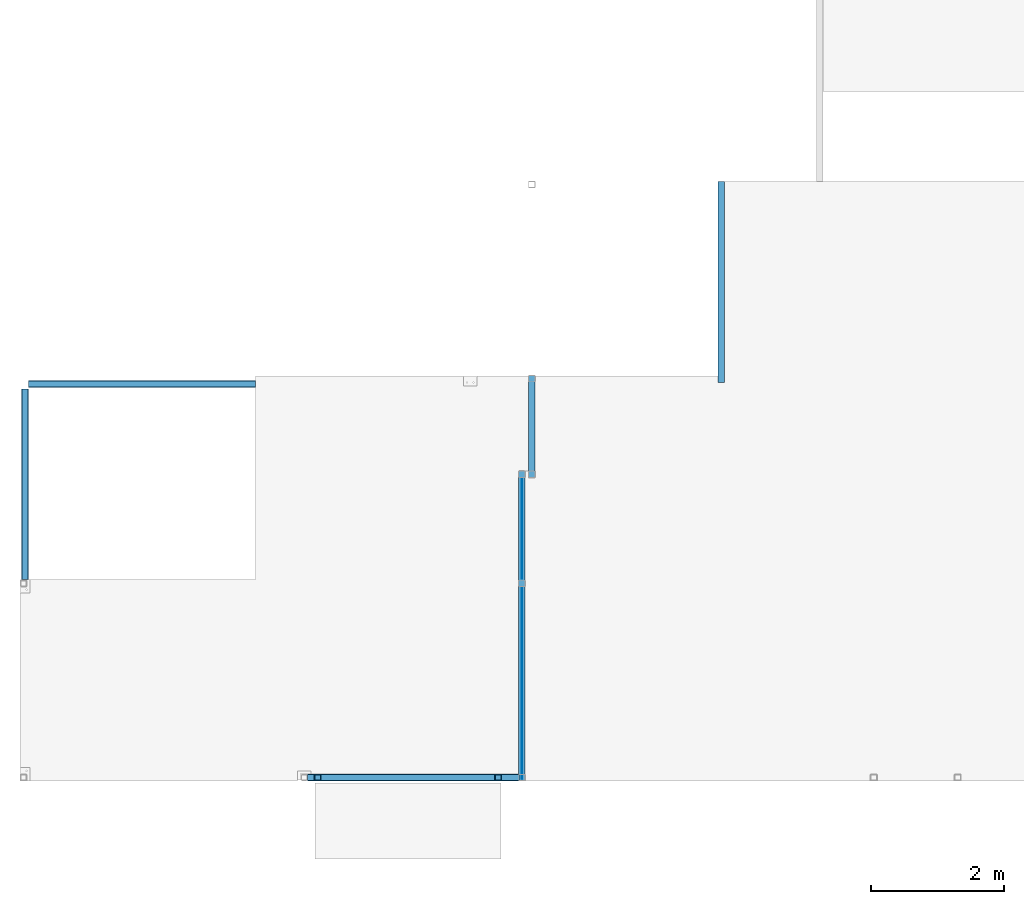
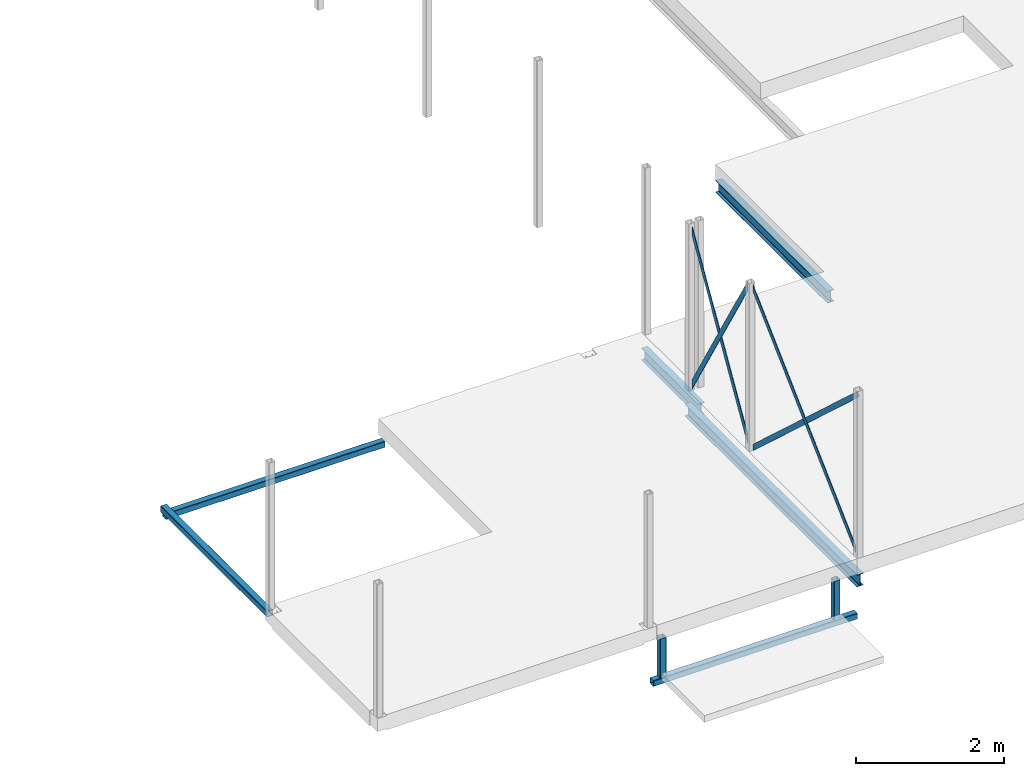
# One storey, part 5 of 7: 10 beams, 2 columns.
"""IFC2X3 building model written with IfcOpenShell, lengths in millimetres."""

from ifc_helpers import new_model, entity, si_unit, converted_unit, derived_unit, direction, frame, frame_2d, origin, place, context, subcontext, project, spatial, polyline, circle_curve, parameter, trimmed, segment, composite_curve, rectangle, i_section, outline, extrude, clip, halfspace, source, transform, mapped, material, type_object, type_shapes, element, save


model = new_model("IFC2X3")

# Units and contexts
model_context = context("Model", 3, precision=0.01, world=origin(), true_north=direction((6.12303176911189e-17, 1.0)))
body_context = subcontext(model_context, "Body", "Model", "MODEL_VIEW")
ifc_project = project(units=[si_unit("LENGTHUNIT", "METRE", prefix="MILLI"), si_unit("AREAUNIT", "SQUARE_METRE"), si_unit("VOLUMEUNIT", "CUBIC_METRE"), converted_unit("PLANEANGLEUNIT", "DEGREE", entity("IfcRatioMeasure", 0.0174532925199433), si_unit("PLANEANGLEUNIT", "RADIAN"), dimensions=[0, 0, 0, 0, 0, 0, 0]), si_unit("MASSUNIT", "GRAM", prefix="KILO"), derived_unit("MASSDENSITYUNIT", [(si_unit("MASSUNIT", "GRAM", prefix="KILO"), 1), (si_unit("LENGTHUNIT", "METRE"), -3)]), si_unit("TIMEUNIT", "SECOND"), si_unit("FREQUENCYUNIT", "HERTZ"), si_unit("THERMODYNAMICTEMPERATUREUNIT", "DEGREE_CELSIUS"), derived_unit("THERMALTRANSMITTANCEUNIT", [(si_unit("MASSUNIT", "GRAM", prefix="KILO"), 1), (si_unit("THERMODYNAMICTEMPERATUREUNIT", "KELVIN"), -1), (si_unit("TIMEUNIT", "SECOND"), -3)]), derived_unit("VOLUMETRICFLOWRATEUNIT", [(si_unit("LENGTHUNIT", "METRE"), 3), (si_unit("TIMEUNIT", "SECOND"), -1)]), si_unit("ELECTRICCURRENTUNIT", "AMPERE"), si_unit("ELECTRICVOLTAGEUNIT", "VOLT"), si_unit("POWERUNIT", "WATT"), si_unit("FORCEUNIT", "NEWTON", prefix="KILO"), si_unit("ILLUMINANCEUNIT", "LUX"), si_unit("LUMINOUSFLUXUNIT", "LUMEN"), si_unit("LUMINOUSINTENSITYUNIT", "CANDELA"), derived_unit("USERDEFINED", [(si_unit("MASSUNIT", "GRAM", prefix="KILO"), -1), (si_unit("LENGTHUNIT", "METRE"), -2), (si_unit("TIMEUNIT", "SECOND"), 3), (si_unit("LUMINOUSFLUXUNIT", "LUMEN"), 1)]), derived_unit("LINEARVELOCITYUNIT", [(si_unit("LENGTHUNIT", "METRE"), 1), (si_unit("TIMEUNIT", "SECOND"), -1)]), si_unit("PRESSUREUNIT", "PASCAL"), derived_unit("USERDEFINED", [(si_unit("LENGTHUNIT", "METRE"), -2), (si_unit("MASSUNIT", "GRAM", prefix="KILO"), 1), (si_unit("TIMEUNIT", "SECOND"), -2)])], contexts=[model_context])

# Site, building, storey
site_placement = place(None, frame((0.0, 0.0, 101000.0)))
site = spatial("IfcSite", under=ifc_project, at=site_placement, Name="Default", CompositionType="ELEMENT")
building_placement = place(site_placement, origin())
building = spatial("IfcBuilding", under=site, at=building_placement, CompositionType="ELEMENT")
storey_placement = place(building_placement, frame((0.0, 0.0, 3150.0)))
storey = spatial("IfcBuildingStorey", under=building, at=storey_placement, Name="02", CompositionType="ELEMENT", Elevation=3149.9999999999)

# Columns
ifc_material_1 = material(Name="S355")
column_type_1 = type_object("IfcColumnType", Name="HUP 100x100x6.3", PredefinedType="COLUMN", material=ifc_material_1)
shared_shape_1 = source(origin(), body_context, "Body", "SweptSolid", [
    extrude(outline(composite_curve([segment(polyline([(-37.4000000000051, -50.0), (37.4000000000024, -50.0)]), True, "CONTINUOUS"), segment(trimmed(circle_curve(frame_2d((37.4000000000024, -37.3999999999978), x_axis=(-1.0, 0.0)), 12.6000000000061), [parameter(90.0000000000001)], [parameter(180.0)], True, "PARAMETER"), True, "CONTINUOUS"), segment(polyline([(50.0, -37.4000000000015), (50.0, 37.3999999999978)]), True, "CONTINUOUS"), segment(trimmed(circle_curve(frame_2d((37.4000000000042, 37.3999999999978), x_axis=(-1.0, 0.0)), 12.6000000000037), [parameter(180.0)], [parameter(270.0)], True, "PARAMETER"), True, "CONTINUOUS"), segment(polyline([(37.4000000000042, 50.0), (-37.4000000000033, 50.0)]), True, "CONTINUOUS"), segment(trimmed(circle_curve(frame_2d((-37.4000000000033, 37.4000000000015), x_axis=(-1.0, 0.0)), 12.6000000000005), [parameter(270.0)], [parameter(360.0)], True, "PARAMETER"), True, "CONTINUOUS"), segment(polyline([(-50.0, 37.3999999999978), (-50.0, -37.4000000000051)]), True, "CONTINUOUS"), segment(trimmed(circle_curve(frame_2d((-37.4000000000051, -37.4000000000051), x_axis=(-1.0, 0.0)), 12.5999999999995), [parameter(360.0)], [parameter(89.9999999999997)], True, "PARAMETER"), True, "CONTINUOUS")], self_intersect=False), holes=[composite_curve([segment(trimmed(circle_curve(frame_2d((-37.4000000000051, -37.4000000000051), x_axis=(-1.0, 0.0)), 6.2999999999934), [parameter(0.0)], [parameter(90.0)], True, "PARAMETER"), False, "CONTINUOUS"), segment(polyline([(-43.6999999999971, -37.4000000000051), (-43.6999999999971, 37.4000000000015)]), True, "CONTINUOUS"), segment(trimmed(circle_curve(frame_2d((-37.3999999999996, 37.4000000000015), x_axis=(-1.0, 0.0)), 6.29999999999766), [parameter(270.0)], [parameter(360.0)], True, "PARAMETER"), False, "CONTINUOUS"), segment(polyline([(-37.3999999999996, 43.6999999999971), (37.3999999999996, 43.6999999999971)]), True, "CONTINUOUS"), segment(trimmed(circle_curve(frame_2d((37.3999999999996, 37.3999999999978), x_axis=(-1.0, 0.0)), 6.30000000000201), [parameter(180.0)], [parameter(270.0)], True, "PARAMETER"), False, "CONTINUOUS"), segment(polyline([(43.7000000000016, 37.3999999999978), (43.7000000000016, -37.4000000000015)]), True, "CONTINUOUS"), segment(trimmed(circle_curve(frame_2d((37.4000000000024, -37.3999999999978), x_axis=(-1.0, 0.0)), 6.30000000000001), [parameter(90.0000000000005)], [parameter(180.0)], True, "PARAMETER"), False, "CONTINUOUS"), segment(polyline([(37.4000000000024, -43.7000000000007), (-37.4000000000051, -43.7000000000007)]), True, "CONTINUOUS")], self_intersect=False)]), frame((8188.31887653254, 23497.9507529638, 2250.0), z_axis=(0.0, 0.0, 1.0), x_axis=(-1.0, 0.0, 0.0)), (0.0, 0.0, 1.0), 650.000000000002),
])
type_shapes(column_type_1, [shared_shape_1])
column_1_placement = place(storey_placement, frame((0.0, 0.0, -3150.0)))
element("IfcColumn", 1, at=column_1_placement, inside=storey, type_object=column_type_1, material=ifc_material_1, Name="Søyle HUP:HUP 100x100x6.3", ObjectType="HUP 100x100x6.3", context=body_context, shape_type="MappedRepresentation", body=[
    mapped(shared_shape_1, transform((0.0, 0.0, 0.0), scale=1.0)),
])
column_type_2 = type_object("IfcColumnType", Name="HUP 100x100x6.3", PredefinedType="COLUMN", material=ifc_material_1)
shared_shape_2 = source(origin(), body_context, "Body", "SweptSolid", [
    extrude(outline(composite_curve([segment(polyline([(-37.4000000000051, -50.0), (37.4000000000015, -50.0)]), True, "CONTINUOUS"), segment(trimmed(circle_curve(frame_2d((37.4000000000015, -37.3999999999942), x_axis=(-1.0, 0.0)), 12.6000000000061), [parameter(90.0000000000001)], [parameter(180.0)], True, "PARAMETER"), True, "CONTINUOUS"), segment(polyline([(50.0, -37.4000000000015), (50.0, 37.4000000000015)]), True, "CONTINUOUS"), segment(trimmed(circle_curve(frame_2d((37.4000000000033, 37.4000000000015), x_axis=(-1.0, 0.0)), 12.6000000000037), [parameter(180.0)], [parameter(270.0)], True, "PARAMETER"), True, "CONTINUOUS"), segment(polyline([(37.4000000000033, 50.0), (-37.4000000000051, 50.0)]), True, "CONTINUOUS"), segment(trimmed(circle_curve(frame_2d((-37.4000000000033, 37.4000000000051), x_axis=(-1.0, 0.0)), 12.6000000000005), [parameter(270.0)], [parameter(360.0)], True, "PARAMETER"), True, "CONTINUOUS"), segment(polyline([(-50.0, 37.4000000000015), (-50.0, -37.4000000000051)]), True, "CONTINUOUS"), segment(trimmed(circle_curve(frame_2d((-37.4000000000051, -37.4000000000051), x_axis=(-1.0, 0.0)), 12.5999999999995), [parameter(360.0)], [parameter(89.9999999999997)], True, "PARAMETER"), True, "CONTINUOUS")], self_intersect=False), holes=[composite_curve([segment(trimmed(circle_curve(frame_2d((-37.4000000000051, -37.4000000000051), x_axis=(-1.0, 0.0)), 6.2999999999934), [parameter(0.0)], [parameter(90.0)], True, "PARAMETER"), False, "CONTINUOUS"), segment(polyline([(-43.7000000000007, -37.4000000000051), (-43.7000000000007, 37.4000000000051)]), True, "CONTINUOUS"), segment(trimmed(circle_curve(frame_2d((-37.4000000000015, 37.4000000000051), x_axis=(-1.0, 0.0)), 6.29999999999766), [parameter(270.0)], [parameter(360.0)], True, "PARAMETER"), False, "CONTINUOUS"), segment(polyline([(-37.4000000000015, 43.6999999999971), (37.3999999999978, 43.6999999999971)]), True, "CONTINUOUS"), segment(trimmed(circle_curve(frame_2d((37.3999999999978, 37.4000000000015), x_axis=(-1.0, 0.0)), 6.30000000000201), [parameter(180.0)], [parameter(270.0)], True, "PARAMETER"), False, "CONTINUOUS"), segment(polyline([(43.7000000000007, 37.4000000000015), (43.7000000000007, -37.4000000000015)]), True, "CONTINUOUS"), segment(trimmed(circle_curve(frame_2d((37.4000000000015, -37.3999999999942), x_axis=(-1.0, 0.0)), 6.30000000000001), [parameter(90.0000000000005)], [parameter(180.0)], True, "PARAMETER"), False, "CONTINUOUS"), segment(polyline([(37.4000000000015, -43.6999999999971), (-37.4000000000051, -43.6999999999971)]), True, "CONTINUOUS")], self_intersect=False)]), frame((10904.3188765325, 23497.9507529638, 2250.0), z_axis=(0.0, 0.0, 1.0), x_axis=(-1.0, 0.0, 0.0)), (0.0, 0.0, 1.0), 650.000000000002),
])
type_shapes(column_type_2, [shared_shape_2])
column_2_placement = place(storey_placement, frame((0.0, 0.0, -3150.0)))
element("IfcColumn", 2, at=column_2_placement, inside=storey, type_object=column_type_2, material=ifc_material_1, Name="Søyle HUP:HUP 100x100x6.3", ObjectType="HUP 100x100x6.3", context=body_context, shape_type="MappedRepresentation", body=[
    mapped(shared_shape_2, transform((0.0, 0.0, 0.0), scale=1.0)),
])

# Beams
ifc_material_2 = material(Name="Stål - S355")
beam_type_1 = type_object("IfcBeamType", Name="Bjelke IPE:IPE 200", PredefinedType="BEAM")
beam_1_placement = place(storey_placement, frame((11411.2644969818, 28058.4336358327, -465.0), z_axis=(0.0, 0.0, 1.0), x_axis=(0.0, 1.0, 0.0)))
element("IfcBeam", 3, at=beam_1_placement, inside=storey, type_object=beam_type_1, material=ifc_material_2, Name="Bjelke IPE:IPE 200", ObjectType="Bjelke IPE:IPE 200", context=body_context, shape_type="SweptSolid", body=[
    extrude(i_section(OverallWidth=100.000000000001, OverallDepth=200.0, WebThickness=5.60000000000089, FlangeThickness=8.50000000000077, FilletRadius=11.9999999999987, at=frame_2d((5.47117906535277e-13, -1.08357767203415e-12), x_axis=(0.0, 1.0))), frame((-49.906267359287, 0.0, 100.0), z_axis=(1.0, 0.0, 0.0), x_axis=(0.0, 0.0, -1.0)), (0.0, 0.0, 1.0), 1536.39754447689),
])
beam_2_placement = place(storey_placement, frame((14260.1002454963, 29490.299422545, -465.0), z_axis=(0.0, 0.0, 1.0), x_axis=(0.0, 1.0, 0.0)))
element("IfcBeam", 4, at=beam_2_placement, inside=storey, type_object=beam_type_1, material=ifc_material_2, Name="Bjelke IPE:IPE 200", ObjectType="Bjelke IPE:IPE 200", context=body_context, shape_type="SweptSolid", body=[
    extrude(i_section(OverallWidth=99.9999999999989, OverallDepth=200.0, WebThickness=5.60000000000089, FlangeThickness=8.50000000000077, FilletRadius=11.9999999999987, at=frame_2d((5.47117906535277e-13, -3.25073301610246e-12), x_axis=(0.0, 1.0))), frame((-49.9062673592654, 0.0, 100.0), z_axis=(1.0, 0.0, 0.0), x_axis=(0.0, 0.0, -1.0)), (0.0, 0.0, 1.0), 3025.53967144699),
])
beam_3_placement = place(storey_placement, frame((11261.2644969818, 23494.5531223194, -465.0), z_axis=(0.0, 0.0, 1.0), x_axis=(0.0, 1.0, 0.0)))
element("IfcBeam", 5, at=beam_3_placement, inside=storey, type_object=beam_type_1, material=ifc_material_2, Name="Bjelke IPE:IPE 200", ObjectType="Bjelke IPE:IPE 200", context=body_context, shape_type="SweptSolid", body=[
    extrude(i_section(OverallWidth=99.9999999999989, OverallDepth=200.0, WebThickness=5.60000000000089, FlangeThickness=8.50000000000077, FilletRadius=11.9999999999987, at=frame_2d((5.47117906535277e-13, 1.08357767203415e-12), x_axis=(0.0, 1.0))), frame((-46.5086367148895, 0.0, 100.0), z_axis=(1.0, 0.0, 0.0), x_axis=(0.0, 0.0, -1.0)), (0.0, 0.0, 1.0), 4660.3891502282),
])
ifc_material_3 = material(Name="Structural Framing Fireproofing")
beam_type_2 = type_object("IfcBeamType", Name="Bjelke Stålplate:VINDKRYSS", PredefinedType="BEAM")
beam_4_placement = place(storey_placement, frame((11261.2644969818, 28175.7629851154, -197.756193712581), z_axis=(1.0, 0.0, 0.0), x_axis=(0.0, -0.510254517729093, 0.86002344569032)))
element("IfcBeam", 6, at=beam_4_placement, inside=storey, type_object=beam_type_2, material=ifc_material_3, Name="Bjelke Stålplate:VINDKRYSS", ObjectType="Bjelke Stålplate:VINDKRYSS", context=body_context, shape_type="Clipping", body=[
    clip(clip(extrude(rectangle(XDim=79.9999999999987, YDim=8.00000000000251, at=frame_2d((1.08291153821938e-12, -2.28084218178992e-12), x_axis=(0.0, 1.0))), frame((299.710058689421, 0.0, 0.0), z_axis=(1.0, 0.0, 0.0), x_axis=(0.0, 0.0, -1.0)), (0.0, 0.0, 1.0), 3075.49409951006), halfspace(frame((1014.08831074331, 1360.85719067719, -37.4000000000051), z_axis=(0.510254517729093, 0.86002344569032, 0.0), x_axis=(0.86002344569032, -0.510254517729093, 0.0)), False)), halfspace(frame((248.460140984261, 70.4067315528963, 37.4000000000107), z_axis=(-0.510254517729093, -0.86002344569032, 0.0), x_axis=(0.86002344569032, -0.510254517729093, 0.0)), False)),
])
beam_5_placement = place(storey_placement, frame((11261.2644969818, 28065.1090583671, 2766.21059492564), z_axis=(1.0, 0.0, 0.0), x_axis=(0.0, -0.511622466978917, -0.859210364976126)))
element("IfcBeam", 7, at=beam_5_placement, inside=storey, type_object=beam_type_2, material=ifc_material_3, Name="Bjelke Stålplate:VINDKRYSS", ObjectType="Bjelke Stålplate:VINDKRYSS", context=body_context, shape_type="Clipping", body=[
    clip(clip(extrude(rectangle(XDim=80.0000000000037, YDim=8.00000000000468, at=frame_2d((-1.08268949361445e-12, -2.8066438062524e-13), x_axis=(0.0, 1.0))), frame((82.6918492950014, 0.0, 0.0), z_axis=(1.0, 0.0, 0.0), x_axis=(0.0, 0.0, -1.0)), (0.0, 0.0, 1.0), 3067.14386749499), halfspace(frame((2433.16989100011, 1359.60762031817, 37.3999999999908), z_axis=(-0.511622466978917, 0.859210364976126, 0.0), x_axis=(-0.859210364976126, -0.511622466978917, 0.0)), False)), halfspace(frame((3200.85064519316, 70.3771748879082, -37.4000000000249), z_axis=(0.511622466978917, -0.859210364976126, 0.0), x_axis=(-0.859210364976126, -0.511622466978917, 0.0)), False)),
])
beam_6_placement = place(storey_placement, frame((11261.2644969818, 26417.9507529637, 0.0), z_axis=(0.0, 0.675495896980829, 0.737363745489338), x_axis=(0.0, -0.737363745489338, 0.675495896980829)))
element("IfcBeam", 8, at=beam_6_placement, inside=storey, type_object=beam_type_2, material=ifc_material_3, Name="Bjelke Stålplate:VINDKRYSS", ObjectType="Bjelke Stålplate:VINDKRYSS", context=body_context, shape_type="Clipping", body=[
    clip(extrude(rectangle(XDim=80.000000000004, YDim=8.00000000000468, at=frame_2d((0.0, -1.08268949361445e-12), x_axis=(1.0, 0.0))), frame((58.2889576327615, 0.0, 0.0), z_axis=(1.0, 0.0, 0.0), x_axis=(0.0, 0.0, -1.0)), (0.0, 0.0, 1.0), 3901.99295433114), halfspace(frame((38.1055442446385, 37.3999999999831, -62.0319876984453), z_axis=(-0.737363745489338, 0.0, 0.675495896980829), x_axis=(0.675495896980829, 0.0, 0.737363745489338)), False)),
])
beam_7_placement = place(storey_placement, frame((11261.2644969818, 26384.900872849, 2733.70447995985), z_axis=(0.0, -0.687572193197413, 0.726116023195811), x_axis=(0.0, -0.726116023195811, -0.687572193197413)))
element("IfcBeam", 9, at=beam_7_placement, inside=storey, type_object=beam_type_2, material=ifc_material_3, Name="Bjelke Stålplate:VINDKRYSS", ObjectType="Bjelke Stålplate:VINDKRYSS", context=body_context, shape_type="Clipping", body=[
    clip(clip(extrude(rectangle(XDim=80.0000000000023, YDim=8.00000000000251, at=frame_2d((0.0, 1.0831335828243e-12), x_axis=(1.0, 0.0))), frame((13.010637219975, 0.0, 0.0), z_axis=(1.0, 0.0, 0.0), x_axis=(0.0, 0.0, -1.0)), (0.0, 0.0, 1.0), 3904.34267374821), halfspace(frame((1920.20070281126, 37.3999999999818, -1974.10307107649), z_axis=(-0.726116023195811, 0.0, -0.687572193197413), x_axis=(-0.687572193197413, 0.0, 0.726116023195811)), False)), halfspace(frame((3938.80324729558, -37.4000000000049, -62.6523739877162), z_axis=(0.726116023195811, 0.0, 0.687572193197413), x_axis=(-0.687572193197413, 0.0, 0.726116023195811)), False)),
])
beam_type_3 = type_object("IfcBeamType", Name="Bjelke HUP:HUP 100x100x5", PredefinedType="BEAM")
beam_8_placement = place(storey_placement, frame((3786.26449698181, 29342.9507529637, -182.500000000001), z_axis=(0.0, 0.0, 1.0), x_axis=(0.0, -1.0, 0.0)))
element("IfcBeam", 10, at=beam_8_placement, inside=storey, type_object=beam_type_3, material=ifc_material_1, Name="Bjelke HUP:HUP 100x100x5", ObjectType="Bjelke HUP:HUP 100x100x5", context=body_context, shape_type="SweptSolid", body=[
    extrude(outline(composite_curve([segment(trimmed(circle_curve(frame_2d((-40.0, -40.0), x_axis=(1.0, 0.0)), 10.0), [parameter(180.0)], [parameter(269.999999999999)], True, "PARAMETER"), True, "CONTINUOUS"), segment(polyline([(-40.0, -50.0), (40.0, -50.0)]), True, "CONTINUOUS"), segment(trimmed(circle_curve(frame_2d((40.0, -40.0), x_axis=(1.0, 0.0)), 10.0), [parameter(270.0)], [parameter(5.08888749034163e-14)], True, "PARAMETER"), True, "CONTINUOUS"), segment(polyline([(50.0, -40.0), (50.0, 40.0)]), True, "CONTINUOUS"), segment(trimmed(circle_curve(frame_2d((40.0, 40.0), x_axis=(1.0, 0.0)), 10.0), [parameter(360.0)], [parameter(89.9999999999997)], True, "PARAMETER"), True, "CONTINUOUS"), segment(polyline([(40.0, 50.0), (-40.0, 50.0)]), True, "CONTINUOUS"), segment(trimmed(circle_curve(frame_2d((-40.0, 40.0), x_axis=(1.0, 0.0)), 10.0), [parameter(90.0000000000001)], [parameter(180.0)], True, "PARAMETER"), True, "CONTINUOUS"), segment(polyline([(-50.0, 40.0), (-50.0, -40.0)]), True, "CONTINUOUS")], self_intersect=False), holes=[composite_curve([segment(polyline([(40.0, -45.0), (-40.0, -45.0)]), True, "CONTINUOUS"), segment(trimmed(circle_curve(frame_2d((-40.0, -40.0), x_axis=(1.0, 0.0)), 5.0), [parameter(180.0)], [parameter(270.0)], True, "PARAMETER"), False, "CONTINUOUS"), segment(polyline([(-45.0, -40.0), (-45.0, 40.0)]), True, "CONTINUOUS"), segment(trimmed(circle_curve(frame_2d((-40.0, 40.0), x_axis=(1.0, 0.0)), 5.0), [parameter(90.0000000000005)], [parameter(180.0)], True, "PARAMETER"), False, "CONTINUOUS"), segment(polyline([(-40.0, 45.0), (40.0, 45.0)]), True, "CONTINUOUS"), segment(trimmed(circle_curve(frame_2d((40.0, 40.0), x_axis=(1.0, 0.0)), 5.0), [parameter(0.0)], [parameter(90.0000000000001)], True, "PARAMETER"), False, "CONTINUOUS"), segment(polyline([(45.0, 40.0), (45.0, -40.0)]), True, "CONTINUOUS"), segment(trimmed(circle_curve(frame_2d((40.0, -40.0), x_axis=(1.0, 0.0)), 5.0), [parameter(270.0)], [parameter(5.08888749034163e-13)], True, "PARAMETER"), False, "CONTINUOUS")], self_intersect=False)]), frame((0.0, 0.0, 50.0), z_axis=(1.0, 0.0, 0.0), x_axis=(0.0, -1.0, 0.0)), (0.0, 0.0, 1.0), 2870.00000000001),
])
beam_9_placement = place(storey_placement, frame((3836.2644969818, 29417.9507529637, 0.0)))
element("IfcBeam", 11, at=beam_9_placement, inside=storey, type_object=beam_type_3, material=ifc_material_1, Name="Bjelke HUP:HUP 100x100x5", ObjectType="Bjelke HUP:HUP 100x100x5", context=body_context, shape_type="SweptSolid", body=[
    extrude(outline(composite_curve([segment(trimmed(circle_curve(frame_2d((-40.0, -40.0), x_axis=(1.0, 0.0)), 10.0), [parameter(180.0)], [parameter(269.999999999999)], True, "PARAMETER"), True, "CONTINUOUS"), segment(polyline([(-40.0, -50.0), (40.0, -50.0)]), True, "CONTINUOUS"), segment(trimmed(circle_curve(frame_2d((40.0, -40.0), x_axis=(1.0, 0.0)), 10.0), [parameter(270.0)], [parameter(5.08888749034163e-14)], True, "PARAMETER"), True, "CONTINUOUS"), segment(polyline([(50.0, -40.0), (50.0, 40.0)]), True, "CONTINUOUS"), segment(trimmed(circle_curve(frame_2d((40.0, 40.0), x_axis=(1.0, 0.0)), 10.0), [parameter(360.0)], [parameter(89.9999999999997)], True, "PARAMETER"), True, "CONTINUOUS"), segment(polyline([(40.0, 50.0), (-40.0, 50.0)]), True, "CONTINUOUS"), segment(trimmed(circle_curve(frame_2d((-40.0, 40.0), x_axis=(1.0, 0.0)), 10.0), [parameter(90.0000000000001)], [parameter(180.0)], True, "PARAMETER"), True, "CONTINUOUS"), segment(polyline([(-50.0, 40.0), (-50.0, -40.0)]), True, "CONTINUOUS")], self_intersect=False), holes=[composite_curve([segment(polyline([(40.0, -45.0), (-40.0, -45.0)]), True, "CONTINUOUS"), segment(trimmed(circle_curve(frame_2d((-40.0, -40.0), x_axis=(1.0, 0.0)), 5.0), [parameter(180.0)], [parameter(270.0)], True, "PARAMETER"), False, "CONTINUOUS"), segment(polyline([(-45.0, -40.0), (-45.0, 40.0)]), True, "CONTINUOUS"), segment(trimmed(circle_curve(frame_2d((-40.0, 40.0), x_axis=(1.0, 0.0)), 5.0), [parameter(90.0000000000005)], [parameter(180.0)], True, "PARAMETER"), False, "CONTINUOUS"), segment(polyline([(-40.0, 45.0), (40.0, 45.0)]), True, "CONTINUOUS"), segment(trimmed(circle_curve(frame_2d((40.0, 40.0), x_axis=(1.0, 0.0)), 5.0), [parameter(0.0)], [parameter(90.0000000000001)], True, "PARAMETER"), False, "CONTINUOUS"), segment(polyline([(45.0, 40.0), (45.0, -40.0)]), True, "CONTINUOUS"), segment(trimmed(circle_curve(frame_2d((40.0, -40.0), x_axis=(1.0, 0.0)), 5.0), [parameter(270.0)], [parameter(5.08888749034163e-13)], True, "PARAMETER"), False, "CONTINUOUS")], self_intersect=False)]), frame((0.0, 0.0, -315.0), z_axis=(1.0, 0.0, 0.0), x_axis=(0.0, -1.0, 0.0)), (0.0, 0.0, 1.0), 3420.0),
])
beam_type_4 = type_object("IfcBeamType", Name="Bjelke HUP:HUP 100x100x6.3", PredefinedType="BEAM")
beam_10_placement = place(storey_placement, frame((8106.26449698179, 23497.9507529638, 0.0)))
element("IfcBeam", 12, at=beam_10_placement, inside=storey, type_object=beam_type_4, material=ifc_material_1, Name="Bjelke HUP:HUP 100x100x6.3", ObjectType="Bjelke HUP:HUP 100x100x6.3", context=body_context, shape_type="SweptSolid", body=[
    extrude(outline(composite_curve([segment(trimmed(circle_curve(frame_2d((-37.4000000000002, -37.3999999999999), x_axis=(1.0, 0.0)), 12.6), [parameter(180.0)], [parameter(270.0)], True, "PARAMETER"), True, "CONTINUOUS"), segment(polyline([(-37.4000000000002, -50.0), (37.4000000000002, -50.0)]), True, "CONTINUOUS"), segment(trimmed(circle_curve(frame_2d((37.4000000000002, -37.3999999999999), x_axis=(1.0, 0.0)), 12.6), [parameter(270.0)], [parameter(5.08888749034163e-14)], True, "PARAMETER"), True, "CONTINUOUS"), segment(polyline([(50.0, -37.3999999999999), (50.0, 37.4000000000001)]), True, "CONTINUOUS"), segment(trimmed(circle_curve(frame_2d((37.4000000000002, 37.4000000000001), x_axis=(1.0, 0.0)), 12.6), [parameter(360.0)], [parameter(89.9999999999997)], True, "PARAMETER"), True, "CONTINUOUS"), segment(polyline([(37.4000000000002, 50.0), (-37.4000000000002, 50.0)]), True, "CONTINUOUS"), segment(trimmed(circle_curve(frame_2d((-37.4000000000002, 37.4000000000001), x_axis=(1.0, 0.0)), 12.6), [parameter(90.0000000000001)], [parameter(180.0)], True, "PARAMETER"), True, "CONTINUOUS"), segment(polyline([(-50.0, 37.4000000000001), (-50.0, -37.3999999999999)]), True, "CONTINUOUS")], self_intersect=False), holes=[composite_curve([segment(polyline([(37.4000000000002, -43.7000000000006), (-37.4000000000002, -43.7000000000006)]), True, "CONTINUOUS"), segment(trimmed(circle_curve(frame_2d((-37.4000000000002, -37.4000000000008), x_axis=(1.0, 0.0)), 6.3), [parameter(180.0)], [parameter(270.0)], True, "PARAMETER"), False, "CONTINUOUS"), segment(polyline([(-43.6999999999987, -37.4000000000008), (-43.6999999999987, 37.3999999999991)]), True, "CONTINUOUS"), segment(trimmed(circle_curve(frame_2d((-37.4000000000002, 37.3999999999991), x_axis=(1.0, 0.0)), 6.3), [parameter(90.0000000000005)], [parameter(180.0)], True, "PARAMETER"), False, "CONTINUOUS"), segment(polyline([(-37.4000000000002, 43.6999999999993), (37.4000000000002, 43.6999999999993)]), True, "CONTINUOUS"), segment(trimmed(circle_curve(frame_2d((37.4000000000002, 37.3999999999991), x_axis=(1.0, 0.0)), 6.3), [parameter(0.0)], [parameter(90.0000000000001)], True, "PARAMETER"), False, "CONTINUOUS"), segment(polyline([(43.6999999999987, 37.3999999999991), (43.6999999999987, -37.4000000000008)]), True, "CONTINUOUS"), segment(trimmed(circle_curve(frame_2d((37.4000000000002, -37.4000000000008), x_axis=(1.0, 0.0)), 6.3), [parameter(270.0)], [parameter(3.56222124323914e-13)], True, "PARAMETER"), False, "CONTINUOUS")], self_intersect=False)]), frame((-70.0, 0.0, -950.0), z_axis=(1.0, 0.0, 0.0), x_axis=(0.0, -1.0, 0.0)), (0.0, 0.0, 1.0), 3181.29999999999),
])

save(model, "model.ifc")
